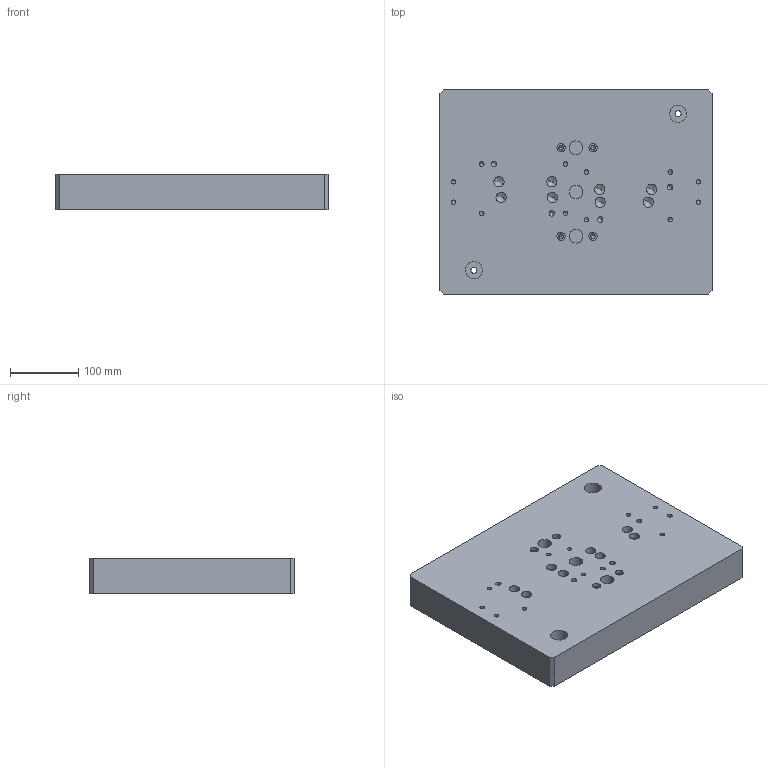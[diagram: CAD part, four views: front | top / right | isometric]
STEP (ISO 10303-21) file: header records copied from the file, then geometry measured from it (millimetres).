
FILE_DESCRIPTION(('CATIA V5 STEP Exchange','CAx-IF Rec.Pracs.--- Model Styling and Organization---1.5--- 2016-08-15','CAx-IF Rec.Pracs.---Supplemental Geometry---1.0---2011-11-01','CAx-IF Rec.Pracs.--- Composite Materials ---1.1---2010-07-15','CAx-IF Rec.Pracs.---External References---2.1---2005-01-19'),'2;1');
FILE_NAME('E:\WAT\Sprezarka\121_00_00_Tlocznik1\Tlocznik1_KPL\Tlocznik1_stp\121_03_52_Plyta.stp','2023-08-01T08:49:44+00:00',('none'),('none'),'CATIA Version 5-6 Release 2022 SP3','CATIA V5 STEP AP214 v2','none');
FILE_SCHEMA(('AUTOMOTIVE_DESIGN { 1 0 10303 214 1 1 1 1 }'));
Length unit declared in the file: millimetre
Products named in the file (1): 121_03_52_Plyta
Bounding box: 400 x 300 x 52 mm (x, y, z)
Volume: 6137761 mm3; surface area: 339047.7 mm2
Topology: 1 solids, 1 shells, 159 faces, 382 edges, 208 vertices
Faces by surface type: cylinder 82, cone 56, plane 21
Entity records: 3888 total; most frequent: ORIENTED_EDGE 652, CARTESIAN_POINT 617, DIRECTION 490, EDGE_CURVE 326, AXIS2_PLACEMENT_3D 247, VERTEX_POINT 208, EDGE_LOOP 202, CIRCLE 164
